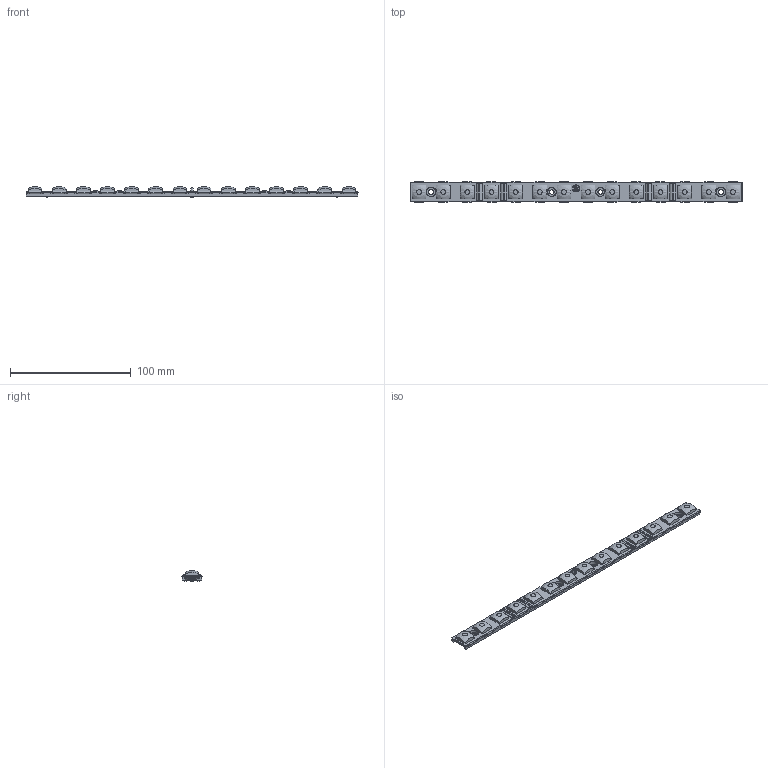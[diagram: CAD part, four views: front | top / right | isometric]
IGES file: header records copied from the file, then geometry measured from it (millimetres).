
Start section: C
Global section: file name: 025-102-09.igs; native system: By Siemens PLM Incorporated; preprocessor: XPlus GENERIC/IGES 23.0.61; author: Author; organization: Title; date: 20250508.161145; units: millimetre
Bounding box: 275 x 16.88 x 8.4 mm (x, y, z)
Volume: 16917.6 mm3; surface area: 14899.5 mm2
Topology: 1 solids, 1 shells, 1085 faces, 2822 edges, 1766 vertices
Faces by surface type: bspline 1085
